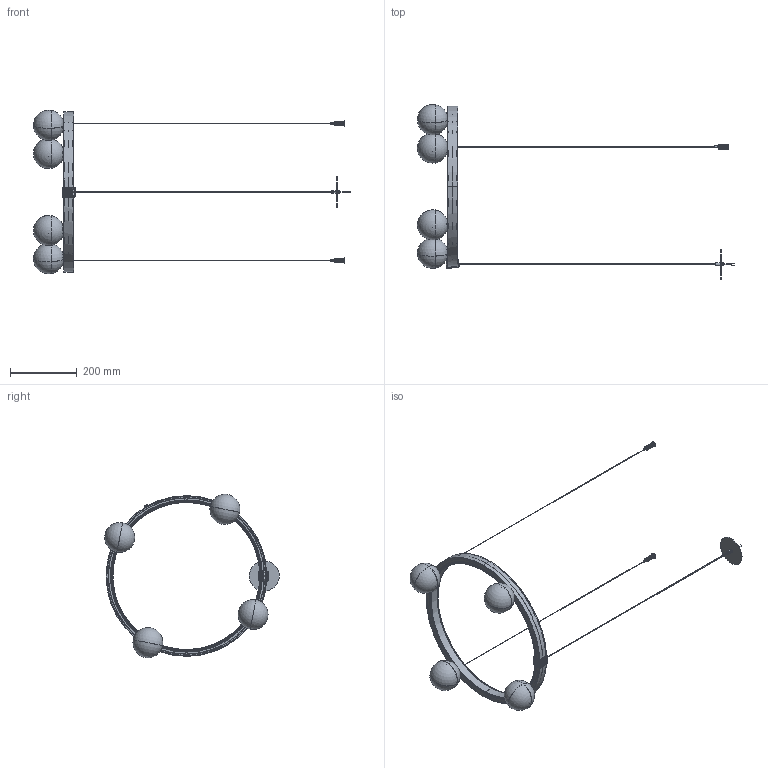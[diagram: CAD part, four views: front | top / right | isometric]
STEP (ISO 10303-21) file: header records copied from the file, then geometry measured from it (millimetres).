
FILE_DESCRIPTION (( 'STEP AP214' ), '1' );
FILE_NAME ('PLANET Ø500.STEP', '2024-05-29T07:37:16', ( '' ), ( '' ), 'SwSTEP 2.0', 'SolidWorks 2024', '' );
FILE_SCHEMA (( 'AUTOMOTIVE_DESIGN' ));
Length unit declared in the file: millimetre
Products named in the file (1): PLANET Ø500
Bounding box: 951.43 x 523.49 x 489.98 mm (x, y, z)
Volume: 599049.9 mm3; surface area: 622547.9 mm2
Topology: 12 solids, 14 shells, 1453 faces, 3549 edges, 2142 vertices
Faces by surface type: plane 630, cone 358, cylinder 277, torus 118, sphere 40, bspline 30
Entity records: 58886 total; most frequent: CARTESIAN_POINT 25619, ORIENTED_EDGE 7018, DIRECTION 6913, EDGE_CURVE 3509, AXIS2_PLACEMENT_3D 2512, VERTEX_POINT 2118, VECTOR 1889, LINE 1889
